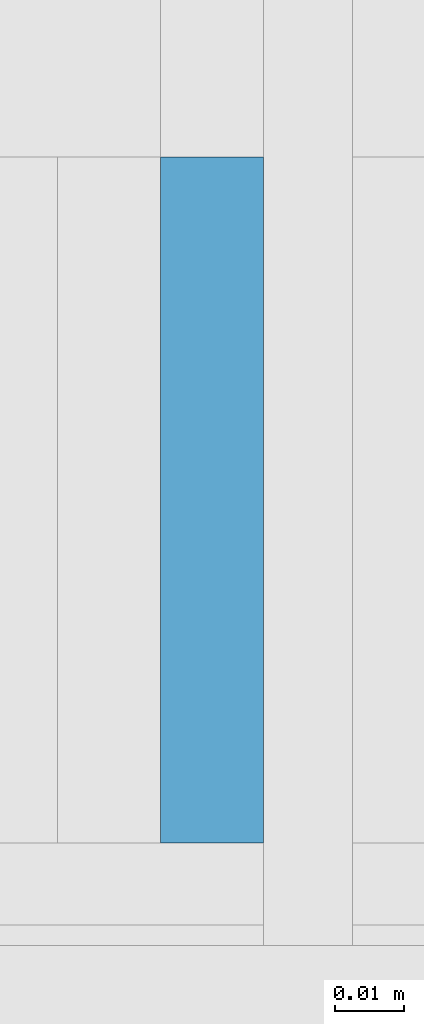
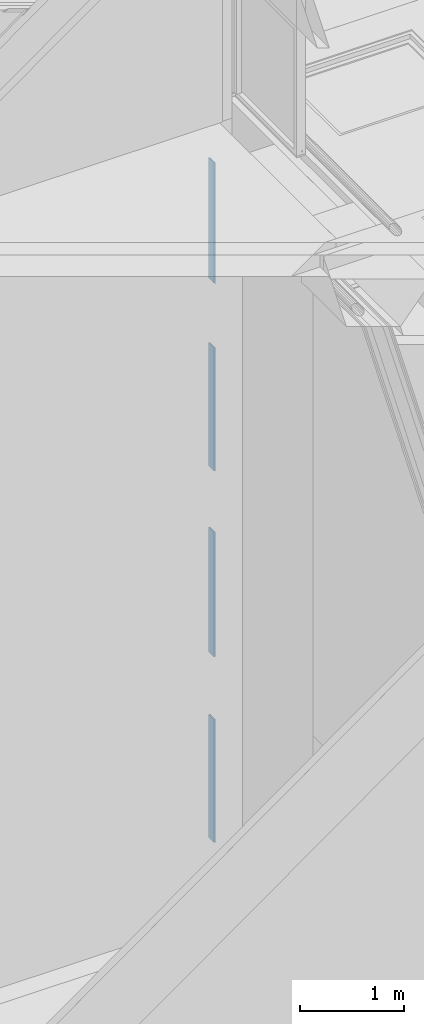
# One storey, part 54 of 583: 4 building element parts, 4 elements without a shape of their own.
"""IFC2X3 building model written with IfcOpenShell, lengths in metres."""

import ifcopenshell
import ifcopenshell.guid

model = None  # the IFC model being written
_history = None  # IfcOwnerHistory: only IFC2X3 demands one
_inside = {}  # id of a spatial element -> (the spatial element, [elements in it])
_under = {}  # id of a project, library or spatial element -> (it, [spatial elements below it])
_declared = {}  # id of a project -> (the project, [libraries it declares])
_typed = {}  # id of a type object -> (the type object, [elements of that type])
_made_of = {}  # id of a material, layer set ... -> (it, [elements and type objects made of it])


def new_model(schema):
    """Start an empty IFC model of exactly this schema.

    Asked for "IFC4X3", IfcOpenShell would pick the latest addendum, in which some entities
    have other attributes; the version numbers below select the first issue.
    IFC2X3 requires an IfcOwnerHistory on every rooted entity: one is made here for all.
    """
    global model, _history
    if schema == "IFC4X3":
        model = ifcopenshell.file(schema_version=(4, 3, 0, 0))
    else:
        model = ifcopenshell.file(schema=schema)
    _inside.clear()
    _under.clear()
    _declared.clear()
    _typed.clear()
    _made_of.clear()
    _history = None
    if model.schema == "IFC2X3":
        org = make("IfcOrganization", Name="unknown")
        user = make(
            "IfcPersonAndOrganization",
            ThePerson=make("IfcPerson", FamilyName="unknown"),
            TheOrganization=org,
        )
        app = make(
            "IfcApplication",
            ApplicationDeveloper=org,
            Version="unknown",
            ApplicationFullName="unknown",
            ApplicationIdentifier="unknown",
        )
        _history = make(
            "IfcOwnerHistory",
            OwningUser=user,
            OwningApplication=app,
            ChangeAction="ADDED",
            CreationDate=0,
        )
    return model


def make(cls, **values):
    """One entity of the class cls with the attributes given. An attribute that is None is left unset."""
    return model.create_entity(
        cls, **{name: value for name, value in values.items() if value is not None}
    )


def entity(cls, *values):
    """Any entity or typed value of the class cls, its attributes in the order of the schema. None: left unset."""
    e = model.create_entity(cls)
    for i, value in enumerate(values):
        if value is not None:
            e[i] = value
    return e


def rooted(cls, **values):
    """An entity with a GlobalId (a new one), such as an element, a storey or a relation."""
    return make(cls, GlobalId=ifcopenshell.guid.new(), OwnerHistory=_history, **values)


def si_unit(unit_type, name, prefix=None):
    """IfcSIUnit, for example si_unit("LENGTHUNIT", "METRE", prefix="MILLI")."""
    return make("IfcSIUnit", UnitType=unit_type, Prefix=prefix, Name=name)


def converted_unit(unit_type, name, factor, base, dimensions=None, offset=None):
    """IfcConversionBasedUnit, such as the inch: factor (a typed value) times the base unit."""
    return make(
        "IfcConversionBasedUnit"
        if offset is None
        else "IfcConversionBasedUnitWithOffset",
        ConversionOffset=offset,
        Dimensions=None
        if dimensions is None
        else entity("IfcDimensionalExponents", *dimensions),
        UnitType=unit_type,
        Name=name,
        ConversionFactor=make(
            "IfcMeasureWithUnit", ValueComponent=factor, UnitComponent=base
        ),
    )


def derived_unit(unit_type, elements):
    """IfcDerivedUnit: a product of units, each with its exponent."""
    return make(
        "IfcDerivedUnit",
        Elements=[
            make("IfcDerivedUnitElement", Unit=unit, Exponent=power)
            for unit, power in elements
        ],
        UnitType=unit_type,
    )


def money_unit(currency):
    """IfcMonetaryUnit."""
    return make("IfcMonetaryUnit", Currency=currency)


def assignment(units):
    """IfcUnitAssignment: the units of a project."""
    return None if units is None else make("IfcUnitAssignment", Units=units)


def point(xyz):
    """IfcCartesianPoint."""
    return None if xyz is None else make("IfcCartesianPoint", Coordinates=xyz)


def direction(xyz):
    """IfcDirection."""
    return None if xyz is None else make("IfcDirection", DirectionRatios=xyz)


def frame(location, z_axis=None, x_axis=None):
    """IfcAxis2Placement3D, a coordinate frame: its origin and axes. An axis left out is left unset."""
    return make(
        "IfcAxis2Placement3D",
        Location=point(location),
        Axis=direction(z_axis),
        RefDirection=direction(x_axis),
    )


def frame_2d(location, x_axis=None):
    """IfcAxis2Placement2D, a coordinate frame in the plane: its origin and x axis."""
    return make(
        "IfcAxis2Placement2D", Location=point(location), RefDirection=direction(x_axis)
    )


def origin_with_axes():
    """The frame at (0, 0, 0) with the z axis (0, 0, 1) and the x axis (1, 0, 0) written out."""
    return frame((0.0, 0.0, 0.0), z_axis=(0.0, 0.0, 1.0), x_axis=(1.0, 0.0, 0.0))


def place(relative_to, where):
    """IfcLocalPlacement: puts the frame where relative to a parent placement (None: the world)."""
    return make(
        "IfcLocalPlacement", PlacementRelTo=relative_to, RelativePlacement=where
    )


def context(
    kind, dimensions, precision=None, world=None, true_north=None, identifier=None
):
    """IfcGeometricRepresentationContext, for example the 3D "Model" context."""
    return make(
        "IfcGeometricRepresentationContext",
        ContextIdentifier=identifier,
        ContextType=kind,
        CoordinateSpaceDimension=dimensions,
        Precision=precision,
        WorldCoordinateSystem=world,
        TrueNorth=true_north,
    )


def subcontext(parent, identifier, kind, view, scale=None):
    """IfcGeometricRepresentationSubContext, for example "Body" below "Model"."""
    return make(
        "IfcGeometricRepresentationSubContext",
        ContextIdentifier=identifier,
        ContextType=kind,
        ParentContext=parent,
        TargetScale=scale,
        TargetView=view,
    )


def project(units=None, contexts=None):
    """IfcProject with its units and contexts."""
    return rooted(
        "IfcProject",
        Name="project",
        RepresentationContexts=contexts,
        UnitsInContext=assignment(units),
    )


def spatial(cls, under=None, at=None, **own):
    """A site, building, storey or space (cls), placed at a placement, below another one or the project."""
    s = rooted(cls, ObjectPlacement=at, **own)
    if under is not None:
        _under.setdefault(under.id(), (under, []))[1].append(s)
    return s


def polyline(points):
    """IfcPolyline through the points."""
    return make("IfcPolyline", Points=[point(p) for p in points])


def profile(cls, at=None, kind="AREA", **sizes):
    """A parametric profile (cls). Its sizes go by their IFC names, for example OverallWidth=200.0."""
    return make(cls, ProfileType=kind, Position=at, **sizes)


def rectangle(**sizes):
    """IfcRectangleProfileDef."""
    return profile("IfcRectangleProfileDef", **sizes)


def outline(outer, holes=None, kind="AREA"):
    """IfcArbitraryClosedProfileDef: a profile drawn as a closed curve; with holes, ...WithVoids."""
    if holes is None:
        return make("IfcArbitraryClosedProfileDef", ProfileType=kind, OuterCurve=outer)
    return make(
        "IfcArbitraryProfileDefWithVoids",
        ProfileType=kind,
        OuterCurve=outer,
        InnerCurves=holes,
    )


def extrude(swept, where, along, depth):
    """IfcExtrudedAreaSolid: the profile swept, set in the frame where, extruded along a direction by depth."""
    return make(
        "IfcExtrudedAreaSolid",
        SweptArea=swept,
        Position=where,
        ExtrudedDirection=direction(along),
        Depth=depth,
    )


def shape(context_of_items, identifier, shape_type, items):
    """IfcShapeRepresentation: the items that make up one representation, for example the "Body"."""
    return make(
        "IfcShapeRepresentation",
        ContextOfItems=context_of_items,
        RepresentationIdentifier=identifier,
        RepresentationType=shape_type,
        Items=items,
    )


def material(Name=None, Category=None):
    """IfcMaterial."""
    return make("IfcMaterial", Name=Name, Category=Category)


def made_of(thing, what):
    """Note that an element or type object is made of a material, layer set ...; save() writes the relation."""
    if what is not None:
        _made_of.setdefault(what.id(), (what, []))[1].append(thing)
    return thing


def type_object(cls, material=None, **own):
    """A type object (cls), such as IfcWallType, which elements share."""
    return made_of(rooted(cls, **own), material)


def element(
    cls,
    number,
    at=None,
    inside=None,
    cuts=None,
    type_object=None,
    material=None,
    context=None,
    identifier="Body",
    shape_type=None,
    held_by="IfcProductDefinitionShape",
    body=None,
    shapes=None,
    **own,
):
    """One element of the class cls, such as IfcWall. Its Tag is "e" and its number.

    at: its placement. inside: the storey or other place that contains it. cuts: it is an
    opening in that element (IfcRelVoidsElement). A single representation is given by context,
    identifier, shape_type and body (its items); several are given by shapes. held_by: the class
    of the entity that holds the representations. save() writes the other relations.
    """
    e = rooted(cls, Tag="e%d" % number, ObjectPlacement=at, **own)
    if body is not None:
        shapes = [shape(context, identifier, shape_type, body)]
    if shapes is not None:
        e.Representation = make(held_by, Representations=shapes)
    if inside is not None:
        _inside.setdefault(inside.id(), (inside, []))[1].append(e)
    if cuts is not None:
        rooted(
            "IfcRelVoidsElement", RelatingBuildingElement=cuts, RelatedOpeningElement=e
        )
    if type_object is not None:
        _typed.setdefault(type_object.id(), (type_object, []))[1].append(e)
    return made_of(e, material)


def aggregate(whole, parts):
    """IfcRelAggregates: a whole, such as a stair, and the parts it consists of."""
    return rooted("IfcRelAggregates", RelatingObject=whole, RelatedObjects=parts)


def save(model, path):
    """Write the relations noted so far, then the file.

    IfcRelAggregates (storeys below a building ...), IfcRelContainedInSpatialStructure (elements
    in a storey), IfcRelDefinesByType, IfcRelAssociatesMaterial and IfcRelDeclares: one each for
    every whole, place, type object, material and project.
    """
    for whole, parts in _under.values():
        aggregate(whole, parts)
    for where, things in _inside.values():
        rooted(
            "IfcRelContainedInSpatialStructure",
            RelatedElements=things,
            RelatingStructure=where,
        )
    for kind, things in _typed.values():
        rooted("IfcRelDefinesByType", RelatedObjects=things, RelatingType=kind)
    for what, things in _made_of.values():
        rooted("IfcRelAssociatesMaterial", RelatedObjects=things, RelatingMaterial=what)
    for by, libraries in _declared.values():
        rooted("IfcRelDeclares", RelatingContext=by, RelatedDefinitions=libraries)
    model.write(path)


model = new_model("IFC2X3")

# Units and contexts
model_context = context("Model", 3, precision=1e-05, world=origin_with_axes(), true_north=direction((0.0, 1.0)))
body_context = subcontext(model_context, "Body", "Model", "MODEL_VIEW", scale=1.0)
ifc_project = project(units=[si_unit("LENGTHUNIT", "METRE"), si_unit("AREAUNIT", "SQUARE_METRE"), si_unit("VOLUMEUNIT", "CUBIC_METRE"), si_unit("ABSORBEDDOSEUNIT", "GRAY"), si_unit("AMOUNTOFSUBSTANCEUNIT", "MOLE"), si_unit("DOSEEQUIVALENTUNIT", "SIEVERT"), si_unit("ELECTRICCAPACITANCEUNIT", "FARAD"), si_unit("ELECTRICCHARGEUNIT", "COULOMB"), si_unit("ELECTRICCONDUCTANCEUNIT", "SIEMENS"), si_unit("ELECTRICCURRENTUNIT", "AMPERE"), si_unit("ELECTRICRESISTANCEUNIT", "OHM"), si_unit("ELECTRICVOLTAGEUNIT", "VOLT"), si_unit("ENERGYUNIT", "JOULE"), si_unit("FORCEUNIT", "NEWTON"), si_unit("FREQUENCYUNIT", "HERTZ"), si_unit("ILLUMINANCEUNIT", "LUX"), si_unit("INDUCTANCEUNIT", "HENRY"), si_unit("LUMINOUSFLUXUNIT", "LUMEN"), si_unit("LUMINOUSINTENSITYUNIT", "CANDELA"), si_unit("MAGNETICFLUXDENSITYUNIT", "TESLA"), si_unit("MAGNETICFLUXUNIT", "WEBER"), si_unit("MASSUNIT", "GRAM"), converted_unit("PLANEANGLEUNIT", "degree", entity("IfcReal", 0.0174532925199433), si_unit("PLANEANGLEUNIT", "RADIAN"), dimensions=[0, 0, 0, 0, 0, 0, 0]), si_unit("POWERUNIT", "WATT"), si_unit("PRESSUREUNIT", "PASCAL"), si_unit("RADIOACTIVITYUNIT", "BECQUEREL"), si_unit("SOLIDANGLEUNIT", "STERADIAN"), si_unit("THERMODYNAMICTEMPERATUREUNIT", "KELVIN"), si_unit("TIMEUNIT", "SECOND"), derived_unit("ACCELERATIONUNIT", [(si_unit("LENGTHUNIT", "METRE"), 1), (si_unit("TIMEUNIT", "SECOND"), -2)]), derived_unit("ANGULARVELOCITYUNIT", [(converted_unit("PLANEANGLEUNIT", "degree", entity("IfcReal", 0.0174532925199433), si_unit("PLANEANGLEUNIT", "RADIAN"), dimensions=[0, 0, 0, 0, 0, 0, 0]), 1), (si_unit("TIMEUNIT", "SECOND"), -1)]), derived_unit("CURVATUREUNIT", [(converted_unit("PLANEANGLEUNIT", "degree", entity("IfcReal", 0.0174532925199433), si_unit("PLANEANGLEUNIT", "RADIAN"), dimensions=[0, 0, 0, 0, 0, 0, 0]), 1), (si_unit("LENGTHUNIT", "METRE"), -1)]), derived_unit("DYNAMICVISCOSITYUNIT", [(si_unit("PRESSUREUNIT", "PASCAL"), 1), (si_unit("TIMEUNIT", "SECOND"), 1)]), derived_unit("HEATFLUXDENSITYUNIT", [(si_unit("POWERUNIT", "WATT"), 1), (si_unit("LENGTHUNIT", "METRE"), -2)]), derived_unit("HEATINGVALUEUNIT", [(si_unit("ENERGYUNIT", "JOULE"), 1), (si_unit("MASSUNIT", "GRAM"), -1)]), derived_unit("INTEGERCOUNTRATEUNIT", [(si_unit("TIMEUNIT", "SECOND"), -1)]), derived_unit("IONCONCENTRATIONUNIT", [(si_unit("MASSUNIT", "GRAM"), 1), (si_unit("VOLUMEUNIT", "CUBIC_METRE"), -1)]), derived_unit("ISOTHERMALMOISTURECAPACITYUNIT", [(si_unit("VOLUMEUNIT", "CUBIC_METRE"), 1), (si_unit("MASSUNIT", "GRAM"), -1)]), derived_unit("KINEMATICVISCOSITYUNIT", [(si_unit("AREAUNIT", "SQUARE_METRE"), 1), (si_unit("TIMEUNIT", "SECOND"), -1)]), derived_unit("LINEARFORCEUNIT", [(si_unit("FORCEUNIT", "NEWTON"), 1), (si_unit("LENGTHUNIT", "METRE"), -1)]), derived_unit("LINEARMOMENTUNIT", [(si_unit("FORCEUNIT", "NEWTON"), 1), (si_unit("LENGTHUNIT", "METRE"), -1)]), derived_unit("LINEARSTIFFNESSUNIT", [(si_unit("FORCEUNIT", "NEWTON"), 1), (si_unit("LENGTHUNIT", "METRE"), -1)]), derived_unit("LINEARVELOCITYUNIT", [(si_unit("LENGTHUNIT", "METRE"), 1), (si_unit("TIMEUNIT", "SECOND"), -1)]), derived_unit("LUMINOUSINTENSITYDISTRIBUTIONUNIT", [(si_unit("LUMINOUSINTENSITYUNIT", "CANDELA"), 1), (si_unit("LUMINOUSFLUXUNIT", "LUMEN"), -1)]), derived_unit("MASSDENSITYUNIT", [(si_unit("MASSUNIT", "GRAM"), 1), (si_unit("VOLUMEUNIT", "CUBIC_METRE"), -1)]), derived_unit("MASSFLOWRATEUNIT", [(si_unit("MASSUNIT", "GRAM"), 1), (si_unit("TIMEUNIT", "SECOND"), -1)]), derived_unit("MASSPERLENGTHUNIT", [(si_unit("MASSUNIT", "GRAM"), 1), (si_unit("LENGTHUNIT", "METRE"), -1)]), derived_unit("MODULUSOFELASTICITYUNIT", [(si_unit("FORCEUNIT", "NEWTON"), 1), (si_unit("AREAUNIT", "SQUARE_METRE"), -1)]), derived_unit("MODULUSOFLINEARSUBGRADEREACTIONUNIT", [(si_unit("FORCEUNIT", "NEWTON"), 1), (si_unit("LENGTHUNIT", "METRE"), -2)]), derived_unit("MODULUSOFROTATIONALSUBGRADEREACTIONUNIT", [(si_unit("FORCEUNIT", "NEWTON"), 1), (si_unit("LENGTHUNIT", "METRE"), 1)]), derived_unit("MODULUSOFSUBGRADEREACTIONUNIT", [(si_unit("FORCEUNIT", "NEWTON"), 1), (si_unit("VOLUMEUNIT", "CUBIC_METRE"), -1)]), derived_unit("MOISTUREDIFFUSIVITYUNIT", [(si_unit("VOLUMEUNIT", "CUBIC_METRE"), 1), (si_unit("TIMEUNIT", "SECOND"), -1)]), derived_unit("MOLECULARWEIGHTUNIT", [(si_unit("MASSUNIT", "GRAM"), 1), (si_unit("AMOUNTOFSUBSTANCEUNIT", "MOLE"), -1)]), derived_unit("PLANARFORCEUNIT", [(si_unit("FORCEUNIT", "NEWTON"), 1), (si_unit("LENGTHUNIT", "METRE"), -2)]), derived_unit("ROTATIONALFREQUENCYUNIT", [(si_unit("TIMEUNIT", "SECOND"), -1)]), derived_unit("ROTATIONALMASSUNIT", [(si_unit("MASSUNIT", "GRAM"), 1), (si_unit("LENGTHUNIT", "METRE"), 2)]), derived_unit("ROTATIONALSTIFFNESSUNIT", [(si_unit("FORCEUNIT", "NEWTON"), 1), (si_unit("LENGTHUNIT", "METRE"), 1), (converted_unit("PLANEANGLEUNIT", "degree", entity("IfcReal", 0.0174532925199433), si_unit("PLANEANGLEUNIT", "RADIAN"), dimensions=[0, 0, 0, 0, 0, 0, 0]), -1)]), derived_unit("SECTIONAREAINTEGRALUNIT", [(si_unit("LENGTHUNIT", "METRE"), 5)]), derived_unit("SECTIONMODULUSUNIT", [(si_unit("LENGTHUNIT", "METRE"), 3)]), derived_unit("SHEARMODULUSUNIT", [(si_unit("FORCEUNIT", "NEWTON"), 1), (si_unit("AREAUNIT", "SQUARE_METRE"), -1)]), derived_unit("SOUNDPOWERUNIT", [(si_unit("ENERGYUNIT", "JOULE"), 1), (si_unit("TIMEUNIT", "SECOND"), -1)]), derived_unit("SPECIFICHEATCAPACITYUNIT", [(si_unit("FORCEUNIT", "NEWTON"), 1), (si_unit("MASSUNIT", "GRAM"), -1), (si_unit("THERMODYNAMICTEMPERATUREUNIT", "KELVIN"), -1)]), derived_unit("TEMPERATUREGRADIENTUNIT", [(si_unit("THERMODYNAMICTEMPERATUREUNIT", "KELVIN"), 1), (si_unit("LENGTHUNIT", "METRE"), -1)]), derived_unit("THERMALADMITTANCEUNIT", [(si_unit("POWERUNIT", "WATT"), 1), (si_unit("AREAUNIT", "SQUARE_METRE"), -1), (si_unit("THERMODYNAMICTEMPERATUREUNIT", "KELVIN"), -1)]), derived_unit("THERMALCONDUCTANCEUNIT", [(si_unit("POWERUNIT", "WATT"), 1), (si_unit("LENGTHUNIT", "METRE"), -1), (si_unit("THERMODYNAMICTEMPERATUREUNIT", "KELVIN"), -1)]), derived_unit("THERMALEXPANSIONCOEFFICIENTUNIT", [(si_unit("THERMODYNAMICTEMPERATUREUNIT", "KELVIN"), -1)]), derived_unit("THERMALRESISTANCEUNIT", [(si_unit("AREAUNIT", "SQUARE_METRE"), 1), (si_unit("POWERUNIT", "WATT"), -1)]), derived_unit("THERMALTRANSMITTANCEUNIT", [(si_unit("POWERUNIT", "WATT"), 1), (si_unit("AREAUNIT", "SQUARE_METRE"), -1), (si_unit("THERMODYNAMICTEMPERATUREUNIT", "KELVIN"), -1)]), derived_unit("TORQUEUNIT", [(si_unit("FORCEUNIT", "NEWTON"), 1), (si_unit("LENGTHUNIT", "METRE"), 1)]), derived_unit("VAPORPERMEABILITYUNIT", [(si_unit("MASSUNIT", "GRAM"), 1), (si_unit("TIMEUNIT", "SECOND"), -1)]), derived_unit("VOLUMETRICFLOWRATEUNIT", [(si_unit("VOLUMEUNIT", "CUBIC_METRE"), 1), (si_unit("TIMEUNIT", "SECOND"), -1)]), derived_unit("WARPINGCONSTANTUNIT", [(si_unit("LENGTHUNIT", "METRE"), 6)]), derived_unit("WARPINGMOMENTUNIT", [(si_unit("FORCEUNIT", "NEWTON"), 1), (si_unit("LENGTHUNIT", "METRE"), 2)]), money_unit("GBP")], contexts=[model_context])

# Site, building, storey
site_placement = place(None, origin_with_axes())
site = spatial("IfcSite", under=ifc_project, at=site_placement, Name="Site", CompositionType="ELEMENT")
building_placement = place(site_placement, origin_with_axes())
building = spatial("IfcBuilding", under=site, at=building_placement, Name="Building01", CompositionType="ELEMENT")
storey_placement = place(building_placement, frame((0.0, 0.0, 20.78), z_axis=(0.0, 0.0, 1.0), x_axis=(1.0, 0.0, 0.0)))
storey = spatial("IfcBuildingStorey", under=building, at=storey_placement, Name="RL", CompositionType="ELEMENT", Elevation=20.78)

# Wall, building element part
wall_type = type_object("IfcWallType", Name="SHE_A-Walls_Type06d_ExternalWallInsulation_48mm", PredefinedType="NOTDEFINED")
wall_1_placement = place(storey_placement, frame((14.594, 5.15, -12.038), z_axis=(0.0, 1.0, 0.0), x_axis=(0.0, 0.0, -1.0)))
wall_1 = element("IfcWall", 1, at=wall_1_placement, inside=storey, type_object=wall_type, Name="6D", ObjectType="SHE_A-Walls_Type06d_ExternalWallInsulation_48mm")
ifc_material = material(Name="A_BSUK_Walls_Timber")
building_element_part_1_placement = place(wall_1_placement, origin_with_axes())
building_element_part_1 = element("IfcBuildingElementPart", 2, at=building_element_part_1_placement, material=ifc_material, Name="2", context=body_context, shape_type="SweptSolid", body=[
    extrude(outline(polyline([(1.417, 0.027), (0.0, 0.027), (0.0, 0.012), (1.432, 0.012), (1.417, 0.027)])), frame((0.0, 0.0, 0.015), z_axis=(0.0, 0.0, 1.0), x_axis=(1.0, 0.0, 0.0)), (0.0, 0.0, 1.0), 0.1),
])
aggregate(wall_1, [building_element_part_1])

wall_2_placement = place(storey_placement, frame((14.594, 5.15, -14.220124), z_axis=(0.0, 1.0, 0.0), x_axis=(0.0, 0.0, -1.0)))
wall_2 = element("IfcWall", 3, at=wall_2_placement, inside=storey, type_object=wall_type, Name="6D", ObjectType="SHE_A-Walls_Type06d_ExternalWallInsulation_48mm")
building_element_part_2_placement = place(wall_2_placement, origin_with_axes())
building_element_part_2 = element("IfcBuildingElementPart", 4, at=building_element_part_2_placement, material=ifc_material, Name="2", context=body_context, shape_type="SweptSolid", body=[
    extrude(rectangle(XDim=1.454876, YDim=0.015, at=frame_2d((0.727438, 0.0195), x_axis=(-1.0, 0.0))), frame((0.0, 0.0, 0.015), z_axis=(0.0, 0.0, 1.0), x_axis=(1.0, 0.0, 0.0)), (0.0, 0.0, 1.0), 0.1),
])
aggregate(wall_2, [building_element_part_2])

wall_3_placement = place(storey_placement, frame((14.594, 5.15, -16.395), z_axis=(0.0, 1.0, 0.0), x_axis=(0.0, 0.0, -1.0)))
wall_3 = element("IfcWall", 5, at=wall_3_placement, inside=storey, type_object=wall_type, Name="6D", ObjectType="SHE_A-Walls_Type06d_ExternalWallInsulation_48mm")
building_element_part_3_placement = place(wall_3_placement, origin_with_axes())
building_element_part_3 = element("IfcBuildingElementPart", 6, at=building_element_part_3_placement, material=ifc_material, Name="2", context=body_context, shape_type="SweptSolid", body=[
    extrude(rectangle(XDim=1.47, YDim=0.015, at=frame_2d((0.735, 0.0195), x_axis=(-1.0, 0.0))), frame((0.0, 0.0, 0.015), z_axis=(0.0, 0.0, 1.0), x_axis=(1.0, 0.0, 0.0)), (0.0, 0.0, 1.0), 0.1),
])
aggregate(wall_3, [building_element_part_3])

wall_4_placement = place(storey_placement, frame((14.594, 5.15, -18.585), z_axis=(0.0, 1.0, 0.0), x_axis=(0.0, 0.0, -1.0)))
wall_4 = element("IfcWall", 7, at=wall_4_placement, inside=storey, type_object=wall_type, Name="6D", ObjectType="SHE_A-Walls_Type06d_ExternalWallInsulation_48mm")
building_element_part_4_placement = place(wall_4_placement, origin_with_axes())
building_element_part_4 = element("IfcBuildingElementPart", 8, at=building_element_part_4_placement, material=ifc_material, Name="2", context=body_context, shape_type="SweptSolid", body=[
    extrude(rectangle(XDim=1.455, YDim=0.015, at=frame_2d((0.7425, 0.0195), x_axis=(-1.0, 0.0))), frame((0.0, 0.0, 0.015), z_axis=(0.0, 0.0, 1.0), x_axis=(1.0, 0.0, 0.0)), (0.0, 0.0, 1.0), 0.1),
])
aggregate(wall_4, [building_element_part_4])

save(model, "model.ifc")
